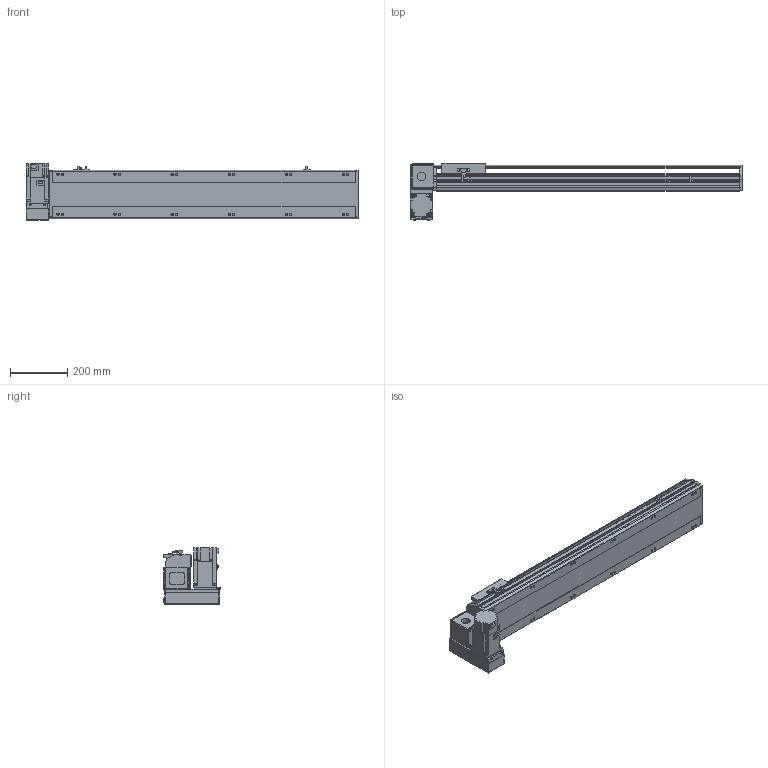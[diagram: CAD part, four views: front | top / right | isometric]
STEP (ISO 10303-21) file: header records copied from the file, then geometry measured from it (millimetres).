
FILE_DESCRIPTION( ( 'STEP AP214' ), '1' );
FILE_NAME( 'x:/temp/worker_3/temp/exporttempdir_5412_9_9WUJk/format_0/PBS170-P40-S800-LD-T75-C1-N(0).stp', '2022-06-07T07:51:05', ( 'License CC BY-ND 4.0' ), ( 'CADENAS' ), ' ', 'PARTsolutions', ' ' );
FILE_SCHEMA( ( 'AUTOMOTIVE_DESIGN { 1 0 10303 214 1 1 1 1 }' ) );
Length unit declared in the file: millimetre
Products named in the file (7): PBS170-P40-S800-LD-T75-C1-N(0); _PBS170-S800()_body; _PBS170T-LD_motors; _T75-p1; _PBS170_sliser; _PBS170_plant; _PBS170_sensor
Assembly tree (8 placements, depth 2):
  PBS170-P40-S800-LD-T75-C1-N(0)
    _PBS170-S800()_body
    _PBS170T-LD_motors
    _T75-p1
    _PBS170_sliser
    _PBS170_plant
    _PBS170_sensor  x3
Bounding box: 1163 x 201 x 197.3 mm (x, y, z)
Volume: 9567605.9 mm3; surface area: 1267361.5 mm2
Topology: 8 solids, 8 shells, 1050 faces, 2795 edges, 1822 vertices
Faces by surface type: plane 675, cylinder 323, cone 42, sphere 8, torus 2
Full cylindrical faces by diameter (mm): 3.242 x4, 4 x2, 4.4 x4, 4.5 x6, 4.917 x4, 6 x9, 6.647 x20, 7 x2, 7.5 x4, 8 x8, 8.5 x12, 10 x4, 10.5 x12, 11 x2, 30 x2, 40 x1, 70 x1
Entity records: 38456 total; most frequent: CARTESIAN_POINT 5885, DIRECTION 5160, ORIENTED_EDGE 4908, EDGE_CURVE 2454, AXIS2_PLACEMENT_3D 1777, VERTEX_POINT 1682, LINE 1606, VECTOR 1606
